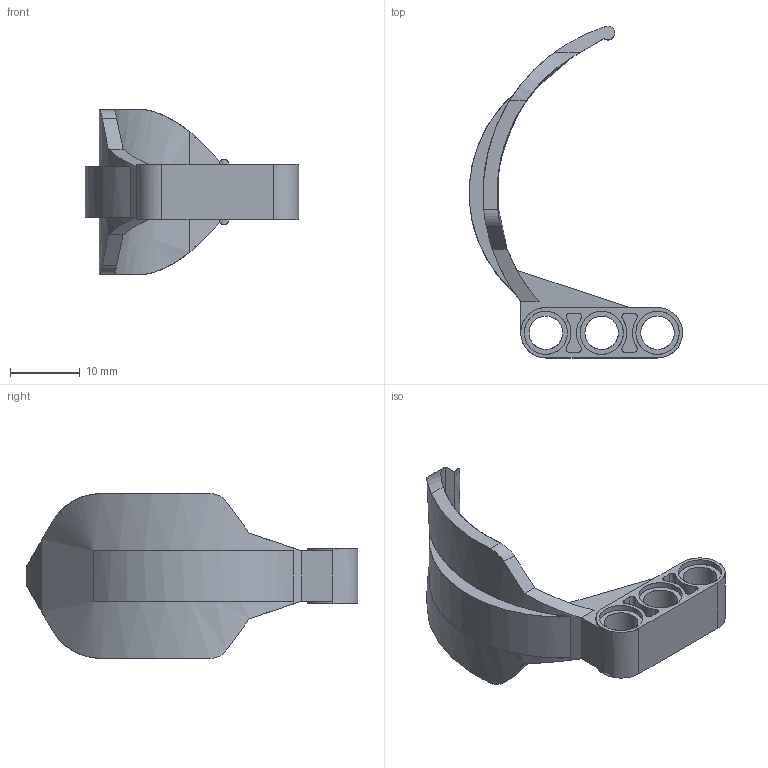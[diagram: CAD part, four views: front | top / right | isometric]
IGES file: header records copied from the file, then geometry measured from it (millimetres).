
Start section: C
Global section: file name: Black_6022769_JCA.iges; native system: By Siemens PLM Incorporated; preprocessor: XPlus GENERIC/IGES 26.1.183; author: Author; organization: Title; date: 20250721.234924; units: millimetre
Bounding box: 30.56 x 47.56 x 23.6 mm (x, y, z)
Surface area: 3349.1 mm2 (no closed solid volume)
Topology: 0 solids, 0 shells, 98 faces, 538 edges, 538 vertices
Faces by surface type: bspline 98
